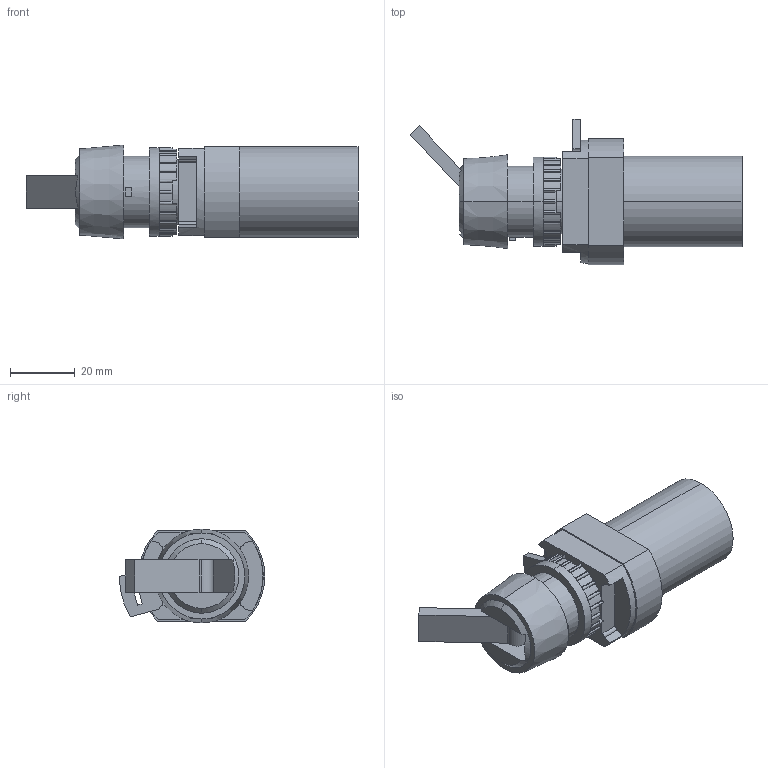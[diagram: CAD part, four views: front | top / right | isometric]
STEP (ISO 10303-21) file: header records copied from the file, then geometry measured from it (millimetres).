
FILE_DESCRIPTION (( 'STEP AP203' ), '1' );
FILE_NAME ('18-T-23-016_T-30-510-Airtec.step', '2006-10-31T13:18:08', ( 'Gustaf Hederström' ), ( 'Cevican AB' ), 'SwSTEP 2.0', 'SolidWorks 2002308', '' );
FILE_SCHEMA (( 'CONFIG_CONTROL_DESIGN' ));
Length unit declared in the file: millimetre
Products named in the file (3): 18-T-23-016_T-30-510-Airtec; T-30-510-Airtec; 18-T-23-016-Airtec
Assembly tree (2 placements, depth 2):
  18-T-23-016_T-30-510-Airtec
    18-T-23-016-Airtec
    T-30-510-Airtec
Bounding box: 102.66 x 45 x 29 mm (x, y, z)
Volume: 53990.5 mm3; surface area: 14892.8 mm2
Topology: 2 solids, 2 shells, 392 faces, 1077 edges, 698 vertices
Faces by surface type: plane 216, cylinder 160, cone 16
Entity records: 12769 total; most frequent: DIRECTION 2257, CARTESIAN_POINT 2182, ORIENTED_EDGE 2134, EDGE_CURVE 1067, AXIS2_PLACEMENT_3D 799, VERTEX_POINT 698, LINE 659, VECTOR 659
